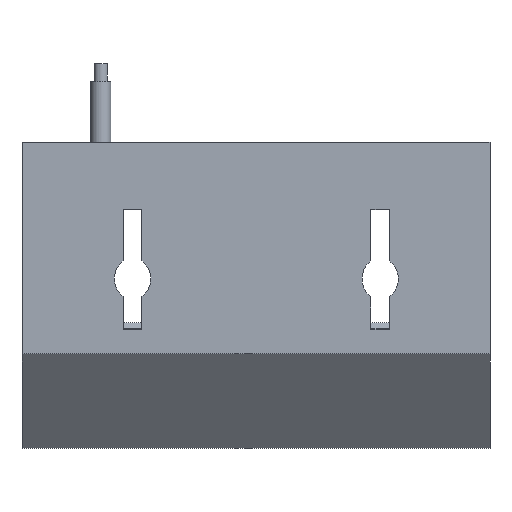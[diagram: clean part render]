
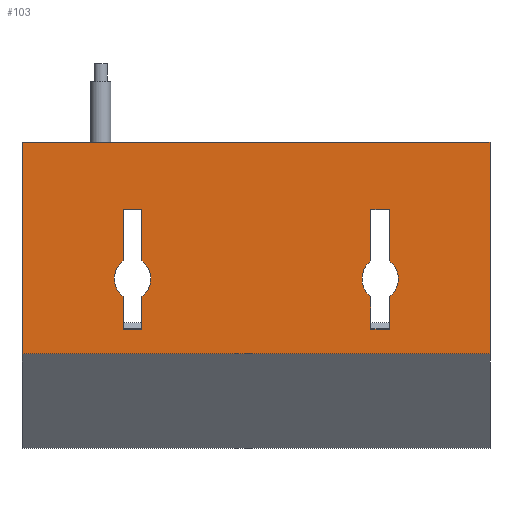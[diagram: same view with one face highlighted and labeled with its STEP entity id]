
A CAD part, top view. The second image highlights one B-rep face of the part: STEP entity #103.
In plain terms, the highlighted planar face has unit normal (0, 0, 1).
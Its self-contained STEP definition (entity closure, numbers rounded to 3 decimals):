
#103 = ADVANCED_FACE( '', ( #209, #210, #211 ), #212, .F. );
#209 = FACE_BOUND( '', #314, .T. );
#210 = FACE_BOUND( '', #315, .T. );
#211 = FACE_OUTER_BOUND( '', #316, .T. );
#212 = PLANE( '', #317 );
#314 = EDGE_LOOP( '', ( #549, #550, #551, #552, #553, #554, #555, #556 ) );
#315 = EDGE_LOOP( '', ( #557, #558, #559, #560, #561, #562, #563, #564 ) );
#316 = EDGE_LOOP( '', ( #565, #566, #567, #568, #569 ) );
#317 = AXIS2_PLACEMENT_3D( '', #570, #571, #572 );
#549 = ORIENTED_EDGE( '', *, *, #652, .F. );
#550 = ORIENTED_EDGE( '', *, *, #644, .F. );
#551 = ORIENTED_EDGE( '', *, *, #631, .F. );
#552 = ORIENTED_EDGE( '', *, *, #723, .F. );
#553 = ORIENTED_EDGE( '', *, *, #699, .F. );
#554 = ORIENTED_EDGE( '', *, *, #689, .F. );
#555 = ORIENTED_EDGE( '', *, *, #693, .F. );
#556 = ORIENTED_EDGE( '', *, *, #725, .F. );
#557 = ORIENTED_EDGE( '', *, *, #714, .F. );
#558 = ORIENTED_EDGE( '', *, *, #726, .F. );
#559 = ORIENTED_EDGE( '', *, *, #727, .F. );
#560 = ORIENTED_EDGE( '', *, *, #626, .F. );
#561 = ORIENTED_EDGE( '', *, *, #712, .F. );
#562 = ORIENTED_EDGE( '', *, *, #656, .F. );
#563 = ORIENTED_EDGE( '', *, *, #728, .F. );
#564 = ORIENTED_EDGE( '', *, *, #703, .F. );
#565 = ORIENTED_EDGE( '', *, *, #729, .T. );
#566 = ORIENTED_EDGE( '', *, *, #721, .F. );
#567 = ORIENTED_EDGE( '', *, *, #637, .F. );
#568 = ORIENTED_EDGE( '', *, *, #708, .T. );
#569 = ORIENTED_EDGE( '', *, *, #710, .T. );
#570 = CARTESIAN_POINT( '', ( 101.2, 38.6, 0. ) );
#571 = DIRECTION( '', ( 0., 0., -1. ) );
#572 = DIRECTION( '', ( -1., 0., 0. ) );
#626 = EDGE_CURVE( '', #739, #740, #741, .T. );
#631 = EDGE_CURVE( '', #748, #749, #750, .T. );
#637 = EDGE_CURVE( '', #758, #760, #761, .T. );
#644 = EDGE_CURVE( '', #749, #772, #773, .T. );
#652 = EDGE_CURVE( '', #772, #784, #785, .T. );
#656 = EDGE_CURVE( '', #790, #791, #792, .T. );
#689 = EDGE_CURVE( '', #843, #844, #845, .T. );
#693 = EDGE_CURVE( '', #849, #843, #850, .T. );
#699 = EDGE_CURVE( '', #844, #858, #859, .T. );
#703 = EDGE_CURVE( '', #863, #864, #865, .T. );
#708 = EDGE_CURVE( '', #758, #855, #871, .T. );
#710 = EDGE_CURVE( '', #855, #872, #874, .T. );
#712 = EDGE_CURVE( '', #791, #739, #876, .T. );
#714 = EDGE_CURVE( '', #878, #863, #879, .T. );
#721 = EDGE_CURVE( '', #760, #885, #887, .T. );
#723 = EDGE_CURVE( '', #858, #748, #889, .T. );
#725 = EDGE_CURVE( '', #784, #849, #891, .T. );
#726 = EDGE_CURVE( '', #892, #878, #893, .T. );
#727 = EDGE_CURVE( '', #740, #892, #894, .T. );
#728 = EDGE_CURVE( '', #864, #790, #895, .T. );
#729 = EDGE_CURVE( '', #872, #885, #896, .T. );
#739 = VERTEX_POINT( '', #906 );
#740 = VERTEX_POINT( '', #907 );
#741 = LINE( '', #908, #909 );
#748 = VERTEX_POINT( '', #919 );
#749 = VERTEX_POINT( '', #920 );
#750 = LINE( '', #921, #922 );
#758 = VERTEX_POINT( '', #933 );
#760 = VERTEX_POINT( '', #936 );
#761 = LINE( '', #937, #938 );
#772 = VERTEX_POINT( '', #954 );
#773 = LINE( '', #955, #956 );
#784 = VERTEX_POINT( '', #972 );
#785 = CIRCLE( '', #973, 6.5 );
#790 = VERTEX_POINT( '', #979 );
#791 = VERTEX_POINT( '', #980 );
#792 = LINE( '', #981, #982 );
#843 = VERTEX_POINT( '', #1054 );
#844 = VERTEX_POINT( '', #1055 );
#845 = LINE( '', #1056, #1057 );
#849 = VERTEX_POINT( '', #1063 );
#850 = LINE( '', #1064, #1065 );
#855 = VERTEX_POINT( '', #1071 );
#858 = VERTEX_POINT( '', #1074 );
#859 = CIRCLE( '', #1075, 6.5 );
#863 = VERTEX_POINT( '', #1080 );
#864 = VERTEX_POINT( '', #1081 );
#865 = LINE( '', #1082, #1083 );
#871 = LINE( '', #1092, #1093 );
#872 = VERTEX_POINT( '', #1094 );
#874 = LINE( '', #1097, #1098 );
#876 = CIRCLE( '', #1100, 6.5 );
#878 = VERTEX_POINT( '', #1102 );
#879 = CIRCLE( '', #1103, 6.5 );
#885 = VERTEX_POINT( '', #1112 );
#887 = LINE( '', #1115, #1116 );
#889 = LINE( '', #1118, #1119 );
#891 = LINE( '', #1121, #1122 );
#892 = VERTEX_POINT( '', #1123 );
#893 = LINE( '', #1124, #1125 );
#894 = LINE( '', #1126, #1127 );
#895 = LINE( '', #1128, #1129 );
#896 = LINE( '', #1130, #1131 );
#906 = CARTESIAN_POINT( '', ( 2.65, 5.116, 0. ) );
#907 = CARTESIAN_POINT( '', ( 2.65, 19.62, 0. ) );
#908 = CARTESIAN_POINT( '', ( 2.65, 5.116, 0. ) );
#909 = VECTOR( '', #1142, 1000. );
#919 = CARTESIAN_POINT( '', ( 72.76, 19.62, 0. ) );
#920 = CARTESIAN_POINT( '', ( 67.46, 19.62, 0. ) );
#921 = CARTESIAN_POINT( '', ( 72.76, 19.62, 0. ) );
#922 = VECTOR( '', #1146, 1000. );
#933 = CARTESIAN_POINT( '', ( 101.2, 38.6, 0. ) );
#936 = CARTESIAN_POINT( '', ( 101.2, -21.28, 0. ) );
#937 = CARTESIAN_POINT( '', ( 101.2, 38.6, 0. ) );
#938 = VECTOR( '', #1151, 1000. );
#954 = CARTESIAN_POINT( '', ( 67.46, 5.116, 0. ) );
#955 = CARTESIAN_POINT( '', ( 67.46, 19.62, 0. ) );
#956 = VECTOR( '', #1157, 1000. );
#972 = CARTESIAN_POINT( '', ( 67.46, -5.116, 0. ) );
#973 = AXIS2_PLACEMENT_3D( '', #1163, #1164, #1165 );
#979 = CARTESIAN_POINT( '', ( 2.65, -14.29, 0. ) );
#980 = CARTESIAN_POINT( '', ( 2.65, -5.116, 0. ) );
#981 = CARTESIAN_POINT( '', ( 2.65, -14.29, 0. ) );
#982 = VECTOR( '', #1170, 1000. );
#1054 = CARTESIAN_POINT( '', ( 72.76, -14.29, 0. ) );
#1055 = CARTESIAN_POINT( '', ( 72.76, -5.116, 0. ) );
#1056 = CARTESIAN_POINT( '', ( 72.76, -14.29, 0. ) );
#1057 = VECTOR( '', #1207, 1000. );
#1063 = CARTESIAN_POINT( '', ( 67.46, -14.29, 0. ) );
#1064 = CARTESIAN_POINT( '', ( 67.46, -14.29, 0. ) );
#1065 = VECTOR( '', #1210, 1000. );
#1071 = CARTESIAN_POINT( '', ( -9., 38.6, 0. ) );
#1074 = CARTESIAN_POINT( '', ( 72.76, 5.116, 0. ) );
#1075 = AXIS2_PLACEMENT_3D( '', #1218, #1219, #1220 );
#1080 = CARTESIAN_POINT( '', ( -2.65, -5.116, 0. ) );
#1081 = CARTESIAN_POINT( '', ( -2.65, -14.29, 0. ) );
#1082 = CARTESIAN_POINT( '', ( -2.65, -5.116, 0. ) );
#1083 = VECTOR( '', #1222, 1000. );
#1092 = CARTESIAN_POINT( '', ( 101.2, 38.6, 0. ) );
#1093 = VECTOR( '', #1226, 1000. );
#1094 = CARTESIAN_POINT( '', ( -31.3, 38.6, 0. ) );
#1097 = CARTESIAN_POINT( '', ( 101.2, 38.6, 0. ) );
#1098 = VECTOR( '', #1228, 1000. );
#1100 = AXIS2_PLACEMENT_3D( '', #1229, #1230, #1231 );
#1102 = CARTESIAN_POINT( '', ( -2.65, 5.116, 0. ) );
#1103 = AXIS2_PLACEMENT_3D( '', #1232, #1233, #1234 );
#1112 = CARTESIAN_POINT( '', ( -31.3, -21.28, 0. ) );
#1115 = CARTESIAN_POINT( '', ( 101.2, -21.28, 0. ) );
#1116 = VECTOR( '', #1239, 1000. );
#1118 = CARTESIAN_POINT( '', ( 72.76, 5.116, 0. ) );
#1119 = VECTOR( '', #1240, 1000. );
#1121 = CARTESIAN_POINT( '', ( 67.46, -5.116, 0. ) );
#1122 = VECTOR( '', #1241, 1000. );
#1123 = CARTESIAN_POINT( '', ( -2.65, 19.62, 0. ) );
#1124 = CARTESIAN_POINT( '', ( -2.65, 19.62, 0. ) );
#1125 = VECTOR( '', #1242, 1000. );
#1126 = CARTESIAN_POINT( '', ( 2.65, 19.62, 0. ) );
#1127 = VECTOR( '', #1243, 1000. );
#1128 = CARTESIAN_POINT( '', ( -2.65, -14.29, 0. ) );
#1129 = VECTOR( '', #1244, 1000. );
#1130 = CARTESIAN_POINT( '', ( -31.3, 38.6, 0. ) );
#1131 = VECTOR( '', #1245, 1000. );
#1142 = DIRECTION( '', ( 0., 1., 0. ) );
#1146 = DIRECTION( '', ( -1., 0., 0. ) );
#1151 = DIRECTION( '', ( 0., -1., 0. ) );
#1157 = DIRECTION( '', ( 0., -1., 0. ) );
#1163 = CARTESIAN_POINT( '', ( 71.47, 0., 0. ) );
#1164 = DIRECTION( '', ( 0., 0., 1. ) );
#1165 = DIRECTION( '', ( 1., 0., 0. ) );
#1170 = DIRECTION( '', ( 0., 1., 0. ) );
#1207 = DIRECTION( '', ( 0., 1., 0. ) );
#1210 = DIRECTION( '', ( 1., 0., 0. ) );
#1218 = CARTESIAN_POINT( '', ( 68.75, 0., 0. ) );
#1219 = DIRECTION( '', ( 0., 0., 1. ) );
#1220 = DIRECTION( '', ( 1., 0., 0. ) );
#1222 = DIRECTION( '', ( 0., -1., 0. ) );
#1226 = DIRECTION( '', ( -1., 0., 0. ) );
#1228 = DIRECTION( '', ( -1., 0., 0. ) );
#1229 = CARTESIAN_POINT( '', ( -1.36, 0., 0. ) );
#1230 = DIRECTION( '', ( 0., 0., 1. ) );
#1231 = DIRECTION( '', ( 1., 0., 0. ) );
#1232 = CARTESIAN_POINT( '', ( 1.36, 0., 0. ) );
#1233 = DIRECTION( '', ( 0., 0., 1. ) );
#1234 = DIRECTION( '', ( 1., 0., 0. ) );
#1239 = DIRECTION( '', ( -1., 0., 0. ) );
#1240 = DIRECTION( '', ( 0., 1., 0. ) );
#1241 = DIRECTION( '', ( 0., -1., 0. ) );
#1242 = DIRECTION( '', ( 0., -1., 0. ) );
#1243 = DIRECTION( '', ( -1., 0., 0. ) );
#1244 = DIRECTION( '', ( 1., 0., 0. ) );
#1245 = DIRECTION( '', ( 0., -1., 0. ) );
